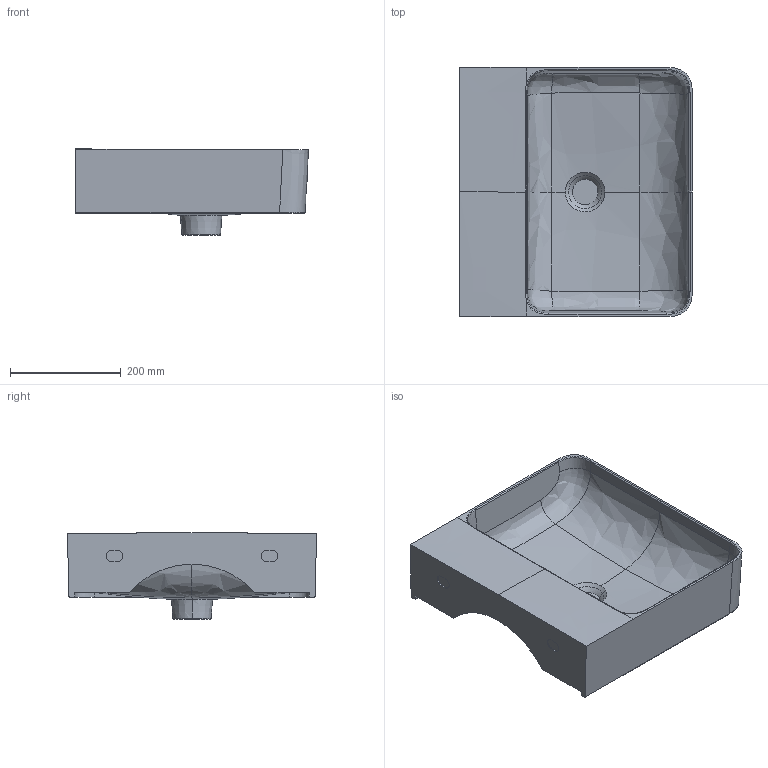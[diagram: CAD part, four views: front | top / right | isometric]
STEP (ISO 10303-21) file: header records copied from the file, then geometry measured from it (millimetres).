
FILE_DESCRIPTION(('CATIA V5 STEP'),'2;1');
FILE_NAME('G:\Laufen Similor\TPM-K\TPE\JStöckli\BIM\VAL\15281\HY15281BIM.stp','2017-02-08T13:34:18+00:00',('none'),('none'),'CATIA Version 5 Release 19 SP 9 (IN-10)','CATIA V5 STEP AP203','none');
FILE_SCHEMA(('CONFIG_CONTROL_DESIGN'));
Length unit declared in the file: millimetre
Products named in the file (1): HY15281BIM
Bounding box: 420 x 450 x 156.48 mm (x, y, z)
Volume: 5729212.3 mm3; surface area: 737496.7 mm2
Topology: 1 solids, 1 shells, 103 faces, 273 edges, 178 vertices
Faces by surface type: bspline 45, plane 31, cylinder 14, extrusion 5, torus 4, cone 4
Entity records: 10748 total; most frequent: CARTESIAN_POINT 8652, ORIENTED_EDGE 534, EDGE_CURVE 267, DIRECTION 224, VERTEX_POINT 169, B_SPLINE_CURVE_WITH_KNOTS 131, EDGE_LOOP 106, ADVANCED_FACE 103
